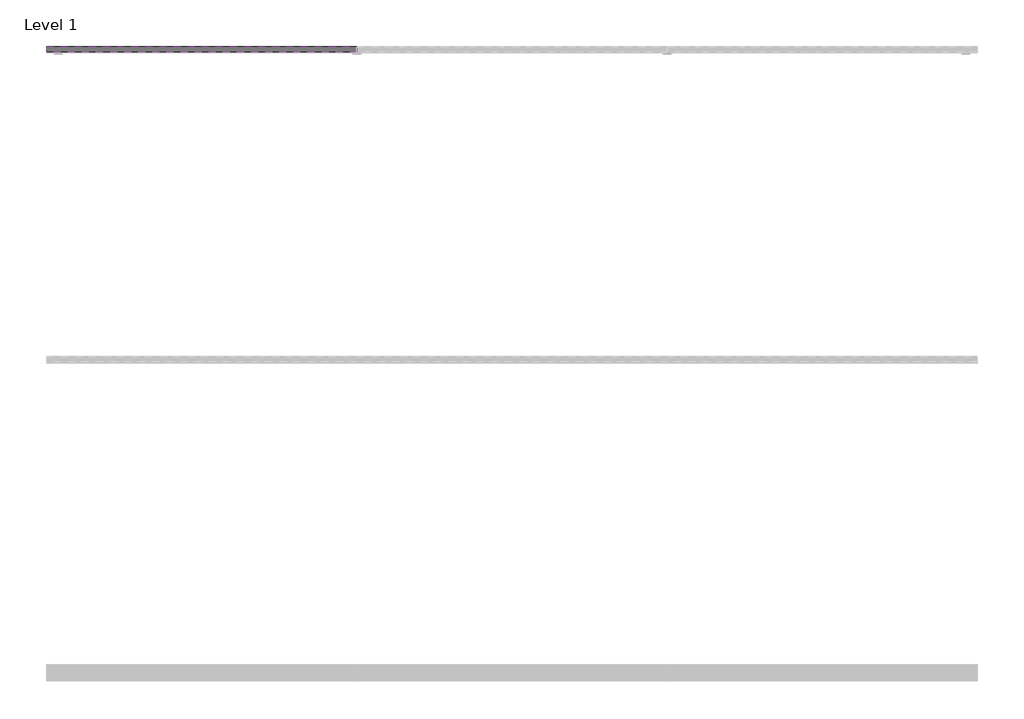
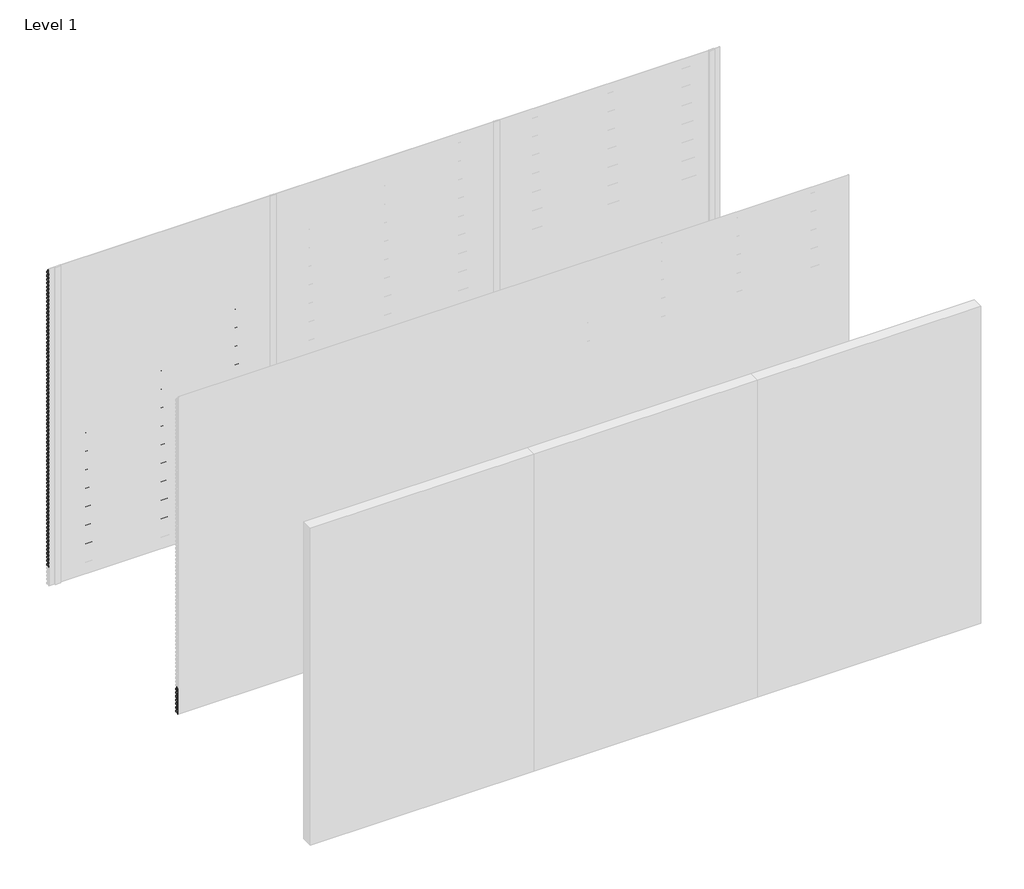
# One storey, part 15 of 17: 87 proxies.
"""IFC4 building model written with IfcOpenShell, lengths in millimetres."""

from ifc_helpers import new_model, si_unit, frame, origin, place, context, project, spatial, polyline, outline, extrude, element, save

model = new_model("IFC4")

# Units and contexts
model_context = context("Model", 3, world=origin())
ifc_project = project(units=[si_unit("LENGTHUNIT", "METRE", prefix="MILLI")], contexts=[model_context])

# Site, building, storey
site = spatial("IfcSite", under=ifc_project)
building = spatial("IfcBuilding", under=site)
storey = spatial("IfcBuildingStorey", under=building, Name="Level 1", Elevation=0.0)

# Proxies
placement = place(None, origin())
element("IfcBuildingElementProxy", 1, Name="Wall Sweeps", at=placement, inside=storey, context=model_context, shape_type="SweptSolid", body=[
    extrude(outline(polyline([(39.0, 2951.5), (39.0, 2936.5), (21.0, 2948.6411533), (3.0, 2936.5), (3.0, 2951.5), (20.0, 2962.9666448), (20.0, 2975.0), (22.0, 2975.0), (22.0, 2962.9666448), (39.0, 2951.5)])), frame((0.0, 0.0, 0.0), z_axis=(1.0, 0.0, 0.0), x_axis=(0.0, 1.0, 0.0)), (0.0, 0.0, 1.0), 2000.0),
])
element("IfcBuildingElementProxy", 2, Name="Wall Sweeps", at=placement, inside=storey, context=model_context, shape_type="SweptSolid", body=[
    extrude(outline(polyline([(39.0, 2916.5), (39.0, 2901.5), (21.0, 2913.6411533), (3.0, 2901.5), (3.0, 2916.5), (20.0, 2927.9666448), (20.0, 2940.0), (22.0, 2940.0), (22.0, 2927.9666448), (39.0, 2916.5)])), frame((0.0, 0.0, 0.0), z_axis=(1.0, 0.0, 0.0), x_axis=(0.0, 1.0, 0.0)), (0.0, 0.0, 1.0), 2000.0),
])
element("IfcBuildingElementProxy", 3, Name="Wall Sweeps", at=placement, inside=storey, context=model_context, shape_type="SweptSolid", body=[
    extrude(outline(polyline([(39.0, 2881.5), (39.0, 2866.5), (21.0, 2878.6411533), (3.0, 2866.5), (3.0, 2881.5), (20.0, 2892.9666448), (20.0, 2905.0), (22.0, 2905.0), (22.0, 2892.9666448), (39.0, 2881.5)])), frame((0.0, 0.0, 0.0), z_axis=(1.0, 0.0, 0.0), x_axis=(0.0, 1.0, 0.0)), (0.0, 0.0, 1.0), 2000.0),
])
element("IfcBuildingElementProxy", 4, Name="Wall Sweeps", at=placement, inside=storey, context=model_context, shape_type="SweptSolid", body=[
    extrude(outline(polyline([(39.0, 2846.5), (39.0, 2831.5), (21.0, 2843.6411533), (3.0, 2831.5), (3.0, 2846.5), (20.0, 2857.9666448), (20.0, 2870.0), (22.0, 2870.0), (22.0, 2857.9666448), (39.0, 2846.5)])), frame((0.0, 0.0, 0.0), z_axis=(1.0, 0.0, 0.0), x_axis=(0.0, 1.0, 0.0)), (0.0, 0.0, 1.0), 2000.0),
])
element("IfcBuildingElementProxy", 5, Name="Wall Sweeps", at=placement, inside=storey, context=model_context, shape_type="SweptSolid", body=[
    extrude(outline(polyline([(39.0, 2811.5), (39.0, 2796.5), (21.0, 2808.6411533), (3.0, 2796.5), (3.0, 2811.5), (20.0, 2822.9666448), (20.0, 2835.0), (22.0, 2835.0), (22.0, 2822.9666448), (39.0, 2811.5)])), frame((0.0, 0.0, 0.0), z_axis=(1.0, 0.0, 0.0), x_axis=(0.0, 1.0, 0.0)), (0.0, 0.0, 1.0), 2000.0),
])
element("IfcBuildingElementProxy", 6, Name="Wall Sweeps", at=placement, inside=storey, context=model_context, shape_type="SweptSolid", body=[
    extrude(outline(polyline([(39.0, 2776.5), (39.0, 2761.5), (21.0, 2773.6411533), (3.0, 2761.5), (3.0, 2776.5), (20.0, 2787.9666448), (20.0, 2800.0), (22.0, 2800.0), (22.0, 2787.9666448), (39.0, 2776.5)])), frame((0.0, 0.0, 0.0), z_axis=(1.0, 0.0, 0.0), x_axis=(0.0, 1.0, 0.0)), (0.0, 0.0, 1.0), 2000.0),
])
element("IfcBuildingElementProxy", 7, Name="Wall Sweeps", at=placement, inside=storey, context=model_context, shape_type="SweptSolid", body=[
    extrude(outline(polyline([(39.0, 2741.5), (39.0, 2726.5), (21.0, 2738.6411533), (3.0, 2726.5), (3.0, 2741.5), (20.0, 2752.9666448), (20.0, 2765.0), (22.0, 2765.0), (22.0, 2752.9666448), (39.0, 2741.5)])), frame((0.0, 0.0, 0.0), z_axis=(1.0, 0.0, 0.0), x_axis=(0.0, 1.0, 0.0)), (0.0, 0.0, 1.0), 2000.0),
])
element("IfcBuildingElementProxy", 8, Name="Wall Sweeps", at=placement, inside=storey, context=model_context, shape_type="SweptSolid", body=[
    extrude(outline(polyline([(39.0, 2706.5), (39.0, 2691.5), (21.0, 2703.6411533), (3.0, 2691.5), (3.0, 2706.5), (20.0, 2717.9666448), (20.0, 2730.0), (22.0, 2730.0), (22.0, 2717.9666448), (39.0, 2706.5)])), frame((0.0, 0.0, 0.0), z_axis=(1.0, 0.0, 0.0), x_axis=(0.0, 1.0, 0.0)), (0.0, 0.0, 1.0), 2000.0),
])
element("IfcBuildingElementProxy", 9, Name="Wall Sweeps", at=placement, inside=storey, context=model_context, shape_type="SweptSolid", body=[
    extrude(outline(polyline([(39.0, 2671.5), (39.0, 2656.5), (21.0, 2668.6411533), (3.0, 2656.5), (3.0, 2671.5), (20.0, 2682.9666448), (20.0, 2695.0), (22.0, 2695.0), (22.0, 2682.9666448), (39.0, 2671.5)])), frame((0.0, 0.0, 0.0), z_axis=(1.0, 0.0, 0.0), x_axis=(0.0, 1.0, 0.0)), (0.0, 0.0, 1.0), 2000.0),
])
element("IfcBuildingElementProxy", 10, Name="Wall Sweeps", at=placement, inside=storey, context=model_context, shape_type="SweptSolid", body=[
    extrude(outline(polyline([(39.0, 2636.5), (39.0, 2621.5), (21.0, 2633.6411533), (3.0, 2621.5), (3.0, 2636.5), (20.0, 2647.9666448), (20.0, 2660.0), (22.0, 2660.0), (22.0, 2647.9666448), (39.0, 2636.5)])), frame((0.0, 0.0, 0.0), z_axis=(1.0, 0.0, 0.0), x_axis=(0.0, 1.0, 0.0)), (0.0, 0.0, 1.0), 2000.0),
])
element("IfcBuildingElementProxy", 11, Name="Wall Sweeps", at=placement, inside=storey, context=model_context, shape_type="SweptSolid", body=[
    extrude(outline(polyline([(39.0, 2601.5), (39.0, 2586.5), (21.0, 2598.6411533), (3.0, 2586.5), (3.0, 2601.5), (20.0, 2612.9666448), (20.0, 2625.0), (22.0, 2625.0), (22.0, 2612.9666448), (39.0, 2601.5)])), frame((0.0, 0.0, 0.0), z_axis=(1.0, 0.0, 0.0), x_axis=(0.0, 1.0, 0.0)), (0.0, 0.0, 1.0), 2000.0),
])
element("IfcBuildingElementProxy", 12, Name="Wall Sweeps", at=placement, inside=storey, context=model_context, shape_type="SweptSolid", body=[
    extrude(outline(polyline([(39.0, 2566.5), (39.0, 2551.5), (21.0, 2563.6411533), (3.0, 2551.5), (3.0, 2566.5), (20.0, 2577.9666448), (20.0, 2590.0), (22.0, 2590.0), (22.0, 2577.9666448), (39.0, 2566.5)])), frame((0.0, 0.0, 0.0), z_axis=(1.0, 0.0, 0.0), x_axis=(0.0, 1.0, 0.0)), (0.0, 0.0, 1.0), 2000.0),
])
element("IfcBuildingElementProxy", 13, Name="Wall Sweeps", at=placement, inside=storey, context=model_context, shape_type="SweptSolid", body=[
    extrude(outline(polyline([(39.0, 2531.5), (39.0, 2516.5), (21.0, 2528.6411533), (3.0, 2516.5), (3.0, 2531.5), (20.0, 2542.9666448), (20.0, 2555.0), (22.0, 2555.0), (22.0, 2542.9666448), (39.0, 2531.5)])), frame((0.0, 0.0, 0.0), z_axis=(1.0, 0.0, 0.0), x_axis=(0.0, 1.0, 0.0)), (0.0, 0.0, 1.0), 2000.0),
])
element("IfcBuildingElementProxy", 14, Name="Wall Sweeps", at=placement, inside=storey, context=model_context, shape_type="SweptSolid", body=[
    extrude(outline(polyline([(39.0, 2496.5), (39.0, 2481.5), (21.0, 2493.6411533), (3.0, 2481.5), (3.0, 2496.5), (20.0, 2507.9666448), (20.0, 2520.0), (22.0, 2520.0), (22.0, 2507.9666448), (39.0, 2496.5)])), frame((0.0, 0.0, 0.0), z_axis=(1.0, 0.0, 0.0), x_axis=(0.0, 1.0, 0.0)), (0.0, 0.0, 1.0), 2000.0),
])
element("IfcBuildingElementProxy", 15, Name="Wall Sweeps", at=placement, inside=storey, context=model_context, shape_type="SweptSolid", body=[
    extrude(outline(polyline([(39.0, 2461.5), (39.0, 2446.5), (21.0, 2458.6411533), (3.0, 2446.5), (3.0, 2461.5), (20.0, 2472.9666448), (20.0, 2485.0), (22.0, 2485.0), (22.0, 2472.9666448), (39.0, 2461.5)])), frame((0.0, 0.0, 0.0), z_axis=(1.0, 0.0, 0.0), x_axis=(0.0, 1.0, 0.0)), (0.0, 0.0, 1.0), 2000.0),
])
element("IfcBuildingElementProxy", 16, Name="Wall Sweeps", at=placement, inside=storey, context=model_context, shape_type="SweptSolid", body=[
    extrude(outline(polyline([(39.0, 2426.5), (39.0, 2411.5), (21.0, 2423.6411533), (3.0, 2411.5), (3.0, 2426.5), (20.0, 2437.9666448), (20.0, 2450.0), (22.0, 2450.0), (22.0, 2437.9666448), (39.0, 2426.5)])), frame((0.0, 0.0, 0.0), z_axis=(1.0, 0.0, 0.0), x_axis=(0.0, 1.0, 0.0)), (0.0, 0.0, 1.0), 2000.0),
])
element("IfcBuildingElementProxy", 17, Name="Wall Sweeps", at=placement, inside=storey, context=model_context, shape_type="SweptSolid", body=[
    extrude(outline(polyline([(39.0, 2391.5), (39.0, 2376.5), (21.0, 2388.6411533), (3.0, 2376.5), (3.0, 2391.5), (20.0, 2402.9666448), (20.0, 2415.0), (22.0, 2415.0), (22.0, 2402.9666448), (39.0, 2391.5)])), frame((0.0, 0.0, 0.0), z_axis=(1.0, 0.0, 0.0), x_axis=(0.0, 1.0, 0.0)), (0.0, 0.0, 1.0), 2000.0),
])
element("IfcBuildingElementProxy", 18, Name="Wall Sweeps", at=placement, inside=storey, context=model_context, shape_type="SweptSolid", body=[
    extrude(outline(polyline([(39.0, 2356.5), (39.0, 2341.5), (21.0, 2353.6411533), (3.0, 2341.5), (3.0, 2356.5), (20.0, 2367.9666448), (20.0, 2380.0), (22.0, 2380.0), (22.0, 2367.9666448), (39.0, 2356.5)])), frame((0.0, 0.0, 0.0), z_axis=(1.0, 0.0, 0.0), x_axis=(0.0, 1.0, 0.0)), (0.0, 0.0, 1.0), 2000.0),
])
element("IfcBuildingElementProxy", 19, Name="Wall Sweeps", at=placement, inside=storey, context=model_context, shape_type="SweptSolid", body=[
    extrude(outline(polyline([(39.0, 2321.5), (39.0, 2306.5), (21.0, 2318.6411533), (3.0, 2306.5), (3.0, 2321.5), (20.0, 2332.9666448), (20.0, 2345.0), (22.0, 2345.0), (22.0, 2332.9666448), (39.0, 2321.5)])), frame((0.0, 0.0, 0.0), z_axis=(1.0, 0.0, 0.0), x_axis=(0.0, 1.0, 0.0)), (0.0, 0.0, 1.0), 2000.0),
])
element("IfcBuildingElementProxy", 20, Name="Wall Sweeps", at=placement, inside=storey, context=model_context, shape_type="SweptSolid", body=[
    extrude(outline(polyline([(39.0, 2286.5), (39.0, 2271.5), (21.0, 2283.6411533), (3.0, 2271.5), (3.0, 2286.5), (20.0, 2297.9666448), (20.0, 2310.0), (22.0, 2310.0), (22.0, 2297.9666448), (39.0, 2286.5)])), frame((0.0, 0.0, 0.0), z_axis=(1.0, 0.0, 0.0), x_axis=(0.0, 1.0, 0.0)), (0.0, 0.0, 1.0), 2000.0),
])
element("IfcBuildingElementProxy", 21, Name="Wall Sweeps", at=placement, inside=storey, context=model_context, shape_type="SweptSolid", body=[
    extrude(outline(polyline([(39.0, 2251.5), (39.0, 2236.5), (21.0, 2248.6411533), (3.0, 2236.5), (3.0, 2251.5), (20.0, 2262.9666448), (20.0, 2275.0), (22.0, 2275.0), (22.0, 2262.9666448), (39.0, 2251.5)])), frame((0.0, 0.0, 0.0), z_axis=(1.0, 0.0, 0.0), x_axis=(0.0, 1.0, 0.0)), (0.0, 0.0, 1.0), 2000.0),
])
element("IfcBuildingElementProxy", 22, Name="Wall Sweeps", at=placement, inside=storey, context=model_context, shape_type="SweptSolid", body=[
    extrude(outline(polyline([(39.0, 2216.5), (39.0, 2201.5), (21.0, 2213.6411533), (3.0, 2201.5), (3.0, 2216.5), (20.0, 2227.9666448), (20.0, 2240.0), (22.0, 2240.0), (22.0, 2227.9666448), (39.0, 2216.5)])), frame((0.0, 0.0, 0.0), z_axis=(1.0, 0.0, 0.0), x_axis=(0.0, 1.0, 0.0)), (0.0, 0.0, 1.0), 2000.0),
])
element("IfcBuildingElementProxy", 23, Name="Wall Sweeps", at=placement, inside=storey, context=model_context, shape_type="SweptSolid", body=[
    extrude(outline(polyline([(39.0, 2181.5), (39.0, 2166.5), (21.0, 2178.6411533), (3.0, 2166.5), (3.0, 2181.5), (20.0, 2192.9666448), (20.0, 2205.0), (22.0, 2205.0), (22.0, 2192.9666448), (39.0, 2181.5)])), frame((0.0, 0.0, 0.0), z_axis=(1.0, 0.0, 0.0), x_axis=(0.0, 1.0, 0.0)), (0.0, 0.0, 1.0), 2000.0),
])
element("IfcBuildingElementProxy", 24, Name="Wall Sweeps", at=placement, inside=storey, context=model_context, shape_type="SweptSolid", body=[
    extrude(outline(polyline([(39.0, 2146.5), (39.0, 2131.5), (21.0, 2143.6411533), (3.0, 2131.5), (3.0, 2146.5), (20.0, 2157.9666448), (20.0, 2170.0), (22.0, 2170.0), (22.0, 2157.9666448), (39.0, 2146.5)])), frame((0.0, 0.0, 0.0), z_axis=(1.0, 0.0, 0.0), x_axis=(0.0, 1.0, 0.0)), (0.0, 0.0, 1.0), 2000.0),
])
element("IfcBuildingElementProxy", 25, Name="Wall Sweeps", at=placement, inside=storey, context=model_context, shape_type="SweptSolid", body=[
    extrude(outline(polyline([(39.0, 2111.5), (39.0, 2096.5), (21.0, 2108.6411533), (3.0, 2096.5), (3.0, 2111.5), (20.0, 2122.9666448), (20.0, 2135.0), (22.0, 2135.0), (22.0, 2122.9666448), (39.0, 2111.5)])), frame((0.0, 0.0, 0.0), z_axis=(1.0, 0.0, 0.0), x_axis=(0.0, 1.0, 0.0)), (0.0, 0.0, 1.0), 2000.0),
])
element("IfcBuildingElementProxy", 26, Name="Wall Sweeps", at=placement, inside=storey, context=model_context, shape_type="SweptSolid", body=[
    extrude(outline(polyline([(39.0, 2076.5), (39.0, 2061.5), (21.0, 2073.6411533), (3.0, 2061.5), (3.0, 2076.5), (20.0, 2087.9666448), (20.0, 2100.0), (22.0, 2100.0), (22.0, 2087.9666448), (39.0, 2076.5)])), frame((0.0, 0.0, 0.0), z_axis=(1.0, 0.0, 0.0), x_axis=(0.0, 1.0, 0.0)), (0.0, 0.0, 1.0), 2000.0),
])
element("IfcBuildingElementProxy", 27, Name="Wall Sweeps", at=placement, inside=storey, context=model_context, shape_type="SweptSolid", body=[
    extrude(outline(polyline([(39.0, 2041.5), (39.0, 2026.5), (21.0, 2038.6411533), (3.0, 2026.5), (3.0, 2041.5), (20.0, 2052.9666448), (20.0, 2065.0), (22.0, 2065.0), (22.0, 2052.9666448), (39.0, 2041.5)])), frame((0.0, 0.0, 0.0), z_axis=(1.0, 0.0, 0.0), x_axis=(0.0, 1.0, 0.0)), (0.0, 0.0, 1.0), 2000.0),
])
element("IfcBuildingElementProxy", 28, Name="Wall Sweeps", at=placement, inside=storey, context=model_context, shape_type="SweptSolid", body=[
    extrude(outline(polyline([(39.0, 2006.5), (39.0, 1991.5), (21.0, 2003.6411533), (3.0, 1991.5), (3.0, 2006.5), (20.0, 2017.9666448), (20.0, 2030.0), (22.0, 2030.0), (22.0, 2017.9666448), (39.0, 2006.5)])), frame((0.0, 0.0, 0.0), z_axis=(1.0, 0.0, 0.0), x_axis=(0.0, 1.0, 0.0)), (0.0, 0.0, 1.0), 2000.0),
])
element("IfcBuildingElementProxy", 29, Name="Wall Sweeps", at=placement, inside=storey, context=model_context, shape_type="SweptSolid", body=[
    extrude(outline(polyline([(39.0, 1971.5), (39.0, 1956.5), (21.0, 1968.6411533), (3.0, 1956.5), (3.0, 1971.5), (20.0, 1982.9666448), (20.0, 1995.0), (22.0, 1995.0), (22.0, 1982.9666448), (39.0, 1971.5)])), frame((0.0, 0.0, 0.0), z_axis=(1.0, 0.0, 0.0), x_axis=(0.0, 1.0, 0.0)), (0.0, 0.0, 1.0), 2000.0),
])
element("IfcBuildingElementProxy", 30, Name="Wall Sweeps", at=placement, inside=storey, context=model_context, shape_type="SweptSolid", body=[
    extrude(outline(polyline([(39.0, 1936.5), (39.0, 1921.5), (21.0, 1933.6411533), (3.0, 1921.5), (3.0, 1936.5), (20.0, 1947.9666448), (20.0, 1960.0), (22.0, 1960.0), (22.0, 1947.9666448), (39.0, 1936.5)])), frame((0.0, 0.0, 0.0), z_axis=(1.0, 0.0, 0.0), x_axis=(0.0, 1.0, 0.0)), (0.0, 0.0, 1.0), 2000.0),
])
element("IfcBuildingElementProxy", 31, Name="Wall Sweeps", at=placement, inside=storey, context=model_context, shape_type="SweptSolid", body=[
    extrude(outline(polyline([(39.0, 1901.5), (39.0, 1886.5), (21.0, 1898.6411533), (3.0, 1886.5), (3.0, 1901.5), (20.0, 1912.9666448), (20.0, 1925.0), (22.0, 1925.0), (22.0, 1912.9666448), (39.0, 1901.5)])), frame((0.0, 0.0, 0.0), z_axis=(1.0, 0.0, 0.0), x_axis=(0.0, 1.0, 0.0)), (0.0, 0.0, 1.0), 2000.0),
])
element("IfcBuildingElementProxy", 32, Name="Wall Sweeps", at=placement, inside=storey, context=model_context, shape_type="SweptSolid", body=[
    extrude(outline(polyline([(39.0, 1866.5), (39.0, 1851.5), (21.0, 1863.6411533), (3.0, 1851.5), (3.0, 1866.5), (20.0, 1877.9666448), (20.0, 1890.0), (22.0, 1890.0), (22.0, 1877.9666448), (39.0, 1866.5)])), frame((0.0, 0.0, 0.0), z_axis=(1.0, 0.0, 0.0), x_axis=(0.0, 1.0, 0.0)), (0.0, 0.0, 1.0), 2000.0),
])
element("IfcBuildingElementProxy", 33, Name="Wall Sweeps", at=placement, inside=storey, context=model_context, shape_type="SweptSolid", body=[
    extrude(outline(polyline([(39.0, 1831.5), (39.0, 1816.5), (21.0, 1828.6411533), (3.0, 1816.5), (3.0, 1831.5), (20.0, 1842.9666448), (20.0, 1855.0), (22.0, 1855.0), (22.0, 1842.9666448), (39.0, 1831.5)])), frame((0.0, 0.0, 0.0), z_axis=(1.0, 0.0, 0.0), x_axis=(0.0, 1.0, 0.0)), (0.0, 0.0, 1.0), 2000.0),
])
element("IfcBuildingElementProxy", 34, Name="Wall Sweeps", at=placement, inside=storey, context=model_context, shape_type="SweptSolid", body=[
    extrude(outline(polyline([(39.0, 1796.5), (39.0, 1781.5), (21.0, 1793.6411533), (3.0, 1781.5), (3.0, 1796.5), (20.0, 1807.9666448), (20.0, 1820.0), (22.0, 1820.0), (22.0, 1807.9666448), (39.0, 1796.5)])), frame((0.0, 0.0, 0.0), z_axis=(1.0, 0.0, 0.0), x_axis=(0.0, 1.0, 0.0)), (0.0, 0.0, 1.0), 2000.0),
])
element("IfcBuildingElementProxy", 35, Name="Wall Sweeps", at=placement, inside=storey, context=model_context, shape_type="SweptSolid", body=[
    extrude(outline(polyline([(39.0, 1761.5), (39.0, 1746.5), (21.0, 1758.6411533), (3.0, 1746.5), (3.0, 1761.5), (20.0, 1772.9666448), (20.0, 1785.0), (22.0, 1785.0), (22.0, 1772.9666448), (39.0, 1761.5)])), frame((0.0, 0.0, 0.0), z_axis=(1.0, 0.0, 0.0), x_axis=(0.0, 1.0, 0.0)), (0.0, 0.0, 1.0), 2000.0),
])
element("IfcBuildingElementProxy", 36, Name="Wall Sweeps", at=placement, inside=storey, context=model_context, shape_type="SweptSolid", body=[
    extrude(outline(polyline([(39.0, 1726.5), (39.0, 1711.5), (21.0, 1723.6411533), (3.0, 1711.5), (3.0, 1726.5), (20.0, 1737.9666448), (20.0, 1750.0), (22.0, 1750.0), (22.0, 1737.9666448), (39.0, 1726.5)])), frame((0.0, 0.0, 0.0), z_axis=(1.0, 0.0, 0.0), x_axis=(0.0, 1.0, 0.0)), (0.0, 0.0, 1.0), 2000.0),
])
element("IfcBuildingElementProxy", 37, Name="Wall Sweeps", at=placement, inside=storey, context=model_context, shape_type="SweptSolid", body=[
    extrude(outline(polyline([(39.0, 1691.5), (39.0, 1676.5), (21.0, 1688.6411533), (3.0, 1676.5), (3.0, 1691.5), (20.0, 1702.9666448), (20.0, 1715.0), (22.0, 1715.0), (22.0, 1702.9666448), (39.0, 1691.5)])), frame((0.0, 0.0, 0.0), z_axis=(1.0, 0.0, 0.0), x_axis=(0.0, 1.0, 0.0)), (0.0, 0.0, 1.0), 2000.0),
])
element("IfcBuildingElementProxy", 38, Name="Wall Sweeps", at=placement, inside=storey, context=model_context, shape_type="SweptSolid", body=[
    extrude(outline(polyline([(39.0, 1656.5), (39.0, 1641.5), (21.0, 1653.6411533), (3.0, 1641.5), (3.0, 1656.5), (20.0, 1667.9666448), (20.0, 1680.0), (22.0, 1680.0), (22.0, 1667.9666448), (39.0, 1656.5)])), frame((0.0, 0.0, 0.0), z_axis=(1.0, 0.0, 0.0), x_axis=(0.0, 1.0, 0.0)), (0.0, 0.0, 1.0), 2000.0),
])
element("IfcBuildingElementProxy", 39, Name="Wall Sweeps", at=placement, inside=storey, context=model_context, shape_type="SweptSolid", body=[
    extrude(outline(polyline([(39.0, 1621.5), (39.0, 1606.5), (21.0, 1618.6411533), (3.0, 1606.5), (3.0, 1621.5), (20.0, 1632.9666448), (20.0, 1645.0), (22.0, 1645.0), (22.0, 1632.9666448), (39.0, 1621.5)])), frame((0.0, 0.0, 0.0), z_axis=(1.0, 0.0, 0.0), x_axis=(0.0, 1.0, 0.0)), (0.0, 0.0, 1.0), 2000.0),
])
element("IfcBuildingElementProxy", 40, Name="Wall Sweeps", at=placement, inside=storey, context=model_context, shape_type="SweptSolid", body=[
    extrude(outline(polyline([(39.0, 1586.5), (39.0, 1571.5), (21.0, 1583.6411533), (3.0, 1571.5), (3.0, 1586.5), (20.0, 1597.9666448), (20.0, 1610.0), (22.0, 1610.0), (22.0, 1597.9666448), (39.0, 1586.5)])), frame((0.0, 0.0, 0.0), z_axis=(1.0, 0.0, 0.0), x_axis=(0.0, 1.0, 0.0)), (0.0, 0.0, 1.0), 2000.0),
])
element("IfcBuildingElementProxy", 41, Name="Wall Sweeps", at=placement, inside=storey, context=model_context, shape_type="SweptSolid", body=[
    extrude(outline(polyline([(39.0, 1551.5), (39.0, 1536.5), (21.0, 1548.6411533), (3.0, 1536.5), (3.0, 1551.5), (20.0, 1562.9666448), (20.0, 1575.0), (22.0, 1575.0), (22.0, 1562.9666448), (39.0, 1551.5)])), frame((0.0, 0.0, 0.0), z_axis=(1.0, 0.0, 0.0), x_axis=(0.0, 1.0, 0.0)), (0.0, 0.0, 1.0), 2000.0),
])
element("IfcBuildingElementProxy", 42, Name="Wall Sweeps", at=placement, inside=storey, context=model_context, shape_type="SweptSolid", body=[
    extrude(outline(polyline([(39.0, 1516.5), (39.0, 1501.5), (21.0, 1513.6411533), (3.0, 1501.5), (3.0, 1516.5), (20.0, 1527.9666448), (20.0, 1540.0), (22.0, 1540.0), (22.0, 1527.9666448), (39.0, 1516.5)])), frame((0.0, 0.0, 0.0), z_axis=(1.0, 0.0, 0.0), x_axis=(0.0, 1.0, 0.0)), (0.0, 0.0, 1.0), 2000.0),
])
element("IfcBuildingElementProxy", 43, Name="Wall Sweeps", at=placement, inside=storey, context=model_context, shape_type="SweptSolid", body=[
    extrude(outline(polyline([(39.0, 1481.5), (39.0, 1466.5), (21.0, 1478.6411533), (3.0, 1466.5), (3.0, 1481.5), (20.0, 1492.9666448), (20.0, 1505.0), (22.0, 1505.0), (22.0, 1492.9666448), (39.0, 1481.5)])), frame((0.0, 0.0, 0.0), z_axis=(1.0, 0.0, 0.0), x_axis=(0.0, 1.0, 0.0)), (0.0, 0.0, 1.0), 2000.0),
])
element("IfcBuildingElementProxy", 44, Name="Wall Sweeps", at=placement, inside=storey, context=model_context, shape_type="SweptSolid", body=[
    extrude(outline(polyline([(39.0, 1446.5), (39.0, 1431.5), (21.0, 1443.6411533), (3.0, 1431.5), (3.0, 1446.5), (20.0, 1457.9666448), (20.0, 1470.0), (22.0, 1470.0), (22.0, 1457.9666448), (39.0, 1446.5)])), frame((0.0, 0.0, 0.0), z_axis=(1.0, 0.0, 0.0), x_axis=(0.0, 1.0, 0.0)), (0.0, 0.0, 1.0), 2000.0),
])
element("IfcBuildingElementProxy", 45, Name="Wall Sweeps", at=placement, inside=storey, context=model_context, shape_type="SweptSolid", body=[
    extrude(outline(polyline([(39.0, 1411.5), (39.0, 1396.5), (21.0, 1408.6411533), (3.0, 1396.5), (3.0, 1411.5), (20.0, 1422.9666448), (20.0, 1435.0), (22.0, 1435.0), (22.0, 1422.9666448), (39.0, 1411.5)])), frame((0.0, 0.0, 0.0), z_axis=(1.0, 0.0, 0.0), x_axis=(0.0, 1.0, 0.0)), (0.0, 0.0, 1.0), 2000.0),
])
element("IfcBuildingElementProxy", 46, Name="Wall Sweeps", at=placement, inside=storey, context=model_context, shape_type="SweptSolid", body=[
    extrude(outline(polyline([(39.0, 1376.5), (39.0, 1361.5), (21.0, 1373.6411533), (3.0, 1361.5), (3.0, 1376.5), (20.0, 1387.9666448), (20.0, 1400.0), (22.0, 1400.0), (22.0, 1387.9666448), (39.0, 1376.5)])), frame((0.0, 0.0, 0.0), z_axis=(1.0, 0.0, 0.0), x_axis=(0.0, 1.0, 0.0)), (0.0, 0.0, 1.0), 2000.0),
])
element("IfcBuildingElementProxy", 47, Name="Wall Sweeps", at=placement, inside=storey, context=model_context, shape_type="SweptSolid", body=[
    extrude(outline(polyline([(39.0, 1341.5), (39.0, 1326.5), (21.0, 1338.6411533), (3.0, 1326.5), (3.0, 1341.5), (20.0, 1352.9666448), (20.0, 1365.0), (22.0, 1365.0), (22.0, 1352.9666448), (39.0, 1341.5)])), frame((0.0, 0.0, 0.0), z_axis=(1.0, 0.0, 0.0), x_axis=(0.0, 1.0, 0.0)), (0.0, 0.0, 1.0), 2000.0),
])
element("IfcBuildingElementProxy", 48, Name="Wall Sweeps", at=placement, inside=storey, context=model_context, shape_type="SweptSolid", body=[
    extrude(outline(polyline([(39.0, 1306.5), (39.0, 1291.5), (21.0, 1303.6411533), (3.0, 1291.5), (3.0, 1306.5), (20.0, 1317.9666448), (20.0, 1330.0), (22.0, 1330.0), (22.0, 1317.9666448), (39.0, 1306.5)])), frame((0.0, 0.0, 0.0), z_axis=(1.0, 0.0, 0.0), x_axis=(0.0, 1.0, 0.0)), (0.0, 0.0, 1.0), 2000.0),
])
element("IfcBuildingElementProxy", 49, Name="Wall Sweeps", at=placement, inside=storey, context=model_context, shape_type="SweptSolid", body=[
    extrude(outline(polyline([(39.0, 1271.5), (39.0, 1256.5), (21.0, 1268.6411533), (3.0, 1256.5), (3.0, 1271.5), (20.0, 1282.9666448), (20.0, 1295.0), (22.0, 1295.0), (22.0, 1282.9666448), (39.0, 1271.5)])), frame((0.0, 0.0, 0.0), z_axis=(1.0, 0.0, 0.0), x_axis=(0.0, 1.0, 0.0)), (0.0, 0.0, 1.0), 2000.0),
])
element("IfcBuildingElementProxy", 50, Name="Wall Sweeps", at=placement, inside=storey, context=model_context, shape_type="SweptSolid", body=[
    extrude(outline(polyline([(39.0, 1236.5), (39.0, 1221.5), (21.0, 1233.6411533), (3.0, 1221.5), (3.0, 1236.5), (20.0, 1247.9666448), (20.0, 1260.0), (22.0, 1260.0), (22.0, 1247.9666448), (39.0, 1236.5)])), frame((0.0, 0.0, 0.0), z_axis=(1.0, 0.0, 0.0), x_axis=(0.0, 1.0, 0.0)), (0.0, 0.0, 1.0), 2000.0),
])
element("IfcBuildingElementProxy", 51, Name="Wall Sweeps", at=placement, inside=storey, context=model_context, shape_type="SweptSolid", body=[
    extrude(outline(polyline([(39.0, 1201.5), (39.0, 1186.5), (21.0, 1198.6411533), (3.0, 1186.5), (3.0, 1201.5), (20.0, 1212.9666448), (20.0, 1225.0), (22.0, 1225.0), (22.0, 1212.9666448), (39.0, 1201.5)])), frame((0.0, 0.0, 0.0), z_axis=(1.0, 0.0, 0.0), x_axis=(0.0, 1.0, 0.0)), (0.0, 0.0, 1.0), 2000.0),
])
element("IfcBuildingElementProxy", 52, Name="Wall Sweeps", at=placement, inside=storey, context=model_context, shape_type="SweptSolid", body=[
    extrude(outline(polyline([(39.0, 1166.5), (39.0, 1151.5), (21.0, 1163.6411533), (3.0, 1151.5), (3.0, 1166.5), (20.0, 1177.9666448), (20.0, 1190.0), (22.0, 1190.0), (22.0, 1177.9666448), (39.0, 1166.5)])), frame((0.0, 0.0, 0.0), z_axis=(1.0, 0.0, 0.0), x_axis=(0.0, 1.0, 0.0)), (0.0, 0.0, 1.0), 2000.0),
])
element("IfcBuildingElementProxy", 53, Name="Wall Sweeps", at=placement, inside=storey, context=model_context, shape_type="SweptSolid", body=[
    extrude(outline(polyline([(39.0, 1131.5), (39.0, 1116.5), (21.0, 1128.6411533), (3.0, 1116.5), (3.0, 1131.5), (20.0, 1142.9666448), (20.0, 1155.0), (22.0, 1155.0), (22.0, 1142.9666448), (39.0, 1131.5)])), frame((0.0, 0.0, 0.0), z_axis=(1.0, 0.0, 0.0), x_axis=(0.0, 1.0, 0.0)), (0.0, 0.0, 1.0), 2000.0),
])
element("IfcBuildingElementProxy", 54, Name="Wall Sweeps", at=placement, inside=storey, context=model_context, shape_type="SweptSolid", body=[
    extrude(outline(polyline([(39.0, 1096.5), (39.0, 1081.5), (21.0, 1093.6411533), (3.0, 1081.5), (3.0, 1096.5), (20.0, 1107.9666448), (20.0, 1120.0), (22.0, 1120.0), (22.0, 1107.9666448), (39.0, 1096.5)])), frame((0.0, 0.0, 0.0), z_axis=(1.0, 0.0, 0.0), x_axis=(0.0, 1.0, 0.0)), (0.0, 0.0, 1.0), 2000.0),
])
element("IfcBuildingElementProxy", 55, Name="Wall Sweeps", at=placement, inside=storey, context=model_context, shape_type="SweptSolid", body=[
    extrude(outline(polyline([(39.0, 1061.5), (39.0, 1046.5), (21.0, 1058.6411533), (3.0, 1046.5), (3.0, 1061.5), (20.0, 1072.9666448), (20.0, 1085.0), (22.0, 1085.0), (22.0, 1072.9666448), (39.0, 1061.5)])), frame((0.0, 0.0, 0.0), z_axis=(1.0, 0.0, 0.0), x_axis=(0.0, 1.0, 0.0)), (0.0, 0.0, 1.0), 2000.0),
])
element("IfcBuildingElementProxy", 56, Name="Wall Sweeps", at=placement, inside=storey, context=model_context, shape_type="SweptSolid", body=[
    extrude(outline(polyline([(39.0, 1026.5), (39.0, 1011.5), (21.0, 1023.6411533), (3.0, 1011.5), (3.0, 1026.5), (20.0, 1037.9666448), (20.0, 1050.0), (22.0, 1050.0), (22.0, 1037.9666448), (39.0, 1026.5)])), frame((0.0, 0.0, 0.0), z_axis=(1.0, 0.0, 0.0), x_axis=(0.0, 1.0, 0.0)), (0.0, 0.0, 1.0), 2000.0),
])
element("IfcBuildingElementProxy", 57, Name="Wall Sweeps", at=placement, inside=storey, context=model_context, shape_type="SweptSolid", body=[
    extrude(outline(polyline([(39.0, 991.5), (39.0, 976.5), (21.0, 988.6411533), (3.0, 976.5), (3.0, 991.5), (20.0, 1002.9666448), (20.0, 1015.0), (22.0, 1015.0), (22.0, 1002.9666448), (39.0, 991.5)])), frame((0.0, 0.0, 0.0), z_axis=(1.0, 0.0, 0.0), x_axis=(0.0, 1.0, 0.0)), (0.0, 0.0, 1.0), 2000.0),
])
element("IfcBuildingElementProxy", 58, Name="Wall Sweeps", at=placement, inside=storey, context=model_context, shape_type="SweptSolid", body=[
    extrude(outline(polyline([(39.0, 956.5), (39.0, 941.5), (21.0, 953.6411533), (3.0, 941.5), (3.0, 956.5), (20.0, 967.9666448), (20.0, 980.0), (22.0, 980.0), (22.0, 967.9666448), (39.0, 956.5)])), frame((0.0, 0.0, 0.0), z_axis=(1.0, 0.0, 0.0), x_axis=(0.0, 1.0, 0.0)), (0.0, 0.0, 1.0), 2000.0),
])
element("IfcBuildingElementProxy", 59, Name="Wall Sweeps", at=placement, inside=storey, context=model_context, shape_type="SweptSolid", body=[
    extrude(outline(polyline([(39.0, 921.5), (39.0, 906.5), (21.0, 918.6411533), (3.0, 906.5), (3.0, 921.5), (20.0, 932.9666448), (20.0, 945.0), (22.0, 945.0), (22.0, 932.9666448), (39.0, 921.5)])), frame((0.0, 0.0, 0.0), z_axis=(1.0, 0.0, 0.0), x_axis=(0.0, 1.0, 0.0)), (0.0, 0.0, 1.0), 2000.0),
])
element("IfcBuildingElementProxy", 60, Name="Wall Sweeps", at=placement, inside=storey, context=model_context, shape_type="SweptSolid", body=[
    extrude(outline(polyline([(39.0, 886.5), (39.0, 871.5), (21.0, 883.6411533), (3.0, 871.5), (3.0, 886.5), (20.0, 897.9666448), (20.0, 910.0), (22.0, 910.0), (22.0, 897.9666448), (39.0, 886.5)])), frame((0.0, 0.0, 0.0), z_axis=(1.0, 0.0, 0.0), x_axis=(0.0, 1.0, 0.0)), (0.0, 0.0, 1.0), 2000.0),
])
element("IfcBuildingElementProxy", 61, Name="Wall Sweeps", at=placement, inside=storey, context=model_context, shape_type="SweptSolid", body=[
    extrude(outline(polyline([(39.0, 851.5), (39.0, 836.5), (21.0, 848.6411533), (3.0, 836.5), (3.0, 851.5), (20.0, 862.9666448), (20.0, 875.0), (22.0, 875.0), (22.0, 862.9666448), (39.0, 851.5)])), frame((0.0, 0.0, 0.0), z_axis=(1.0, 0.0, 0.0), x_axis=(0.0, 1.0, 0.0)), (0.0, 0.0, 1.0), 2000.0),
])
element("IfcBuildingElementProxy", 62, Name="Wall Sweeps", at=placement, inside=storey, context=model_context, shape_type="SweptSolid", body=[
    extrude(outline(polyline([(39.0, 816.5), (39.0, 801.5), (21.0, 813.6411533), (3.0, 801.5), (3.0, 816.5), (20.0, 827.9666448), (20.0, 840.0), (22.0, 840.0), (22.0, 827.9666448), (39.0, 816.5)])), frame((0.0, 0.0, 0.0), z_axis=(1.0, 0.0, 0.0), x_axis=(0.0, 1.0, 0.0)), (0.0, 0.0, 1.0), 2000.0),
])
element("IfcBuildingElementProxy", 63, Name="Wall Sweeps", at=placement, inside=storey, context=model_context, shape_type="SweptSolid", body=[
    extrude(outline(polyline([(39.0, 781.5), (39.0, 766.5), (21.0, 778.6411533), (3.0, 766.5), (3.0, 781.5), (20.0, 792.9666448), (20.0, 805.0), (22.0, 805.0), (22.0, 792.9666448), (39.0, 781.5)])), frame((0.0, 0.0, 0.0), z_axis=(1.0, 0.0, 0.0), x_axis=(0.0, 1.0, 0.0)), (0.0, 0.0, 1.0), 2000.0),
])
element("IfcBuildingElementProxy", 64, Name="Wall Sweeps", at=placement, inside=storey, context=model_context, shape_type="SweptSolid", body=[
    extrude(outline(polyline([(39.0, 746.5), (39.0, 731.5), (21.0, 743.6411533), (3.0, 731.5), (3.0, 746.5), (20.0, 757.9666448), (20.0, 770.0), (22.0, 770.0), (22.0, 757.9666448), (39.0, 746.5)])), frame((0.0, 0.0, 0.0), z_axis=(1.0, 0.0, 0.0), x_axis=(0.0, 1.0, 0.0)), (0.0, 0.0, 1.0), 2000.0),
])
element("IfcBuildingElementProxy", 65, Name="Wall Sweeps", at=placement, inside=storey, context=model_context, shape_type="SweptSolid", body=[
    extrude(outline(polyline([(39.0, 711.5), (39.0, 696.5), (21.0, 708.6411533), (3.0, 696.5), (3.0, 711.5), (20.0, 722.9666448), (20.0, 735.0), (22.0, 735.0), (22.0, 722.9666448), (39.0, 711.5)])), frame((0.0, 0.0, 0.0), z_axis=(1.0, 0.0, 0.0), x_axis=(0.0, 1.0, 0.0)), (0.0, 0.0, 1.0), 2000.0),
])
element("IfcBuildingElementProxy", 66, Name="Wall Sweeps", at=placement, inside=storey, context=model_context, shape_type="SweptSolid", body=[
    extrude(outline(polyline([(39.0, 676.5), (39.0, 661.5), (21.0, 673.6411533), (3.0, 661.5), (3.0, 676.5), (20.0, 687.9666448), (20.0, 700.0), (22.0, 700.0), (22.0, 687.9666448), (39.0, 676.5)])), frame((0.0, 0.0, 0.0), z_axis=(1.0, 0.0, 0.0), x_axis=(0.0, 1.0, 0.0)), (0.0, 0.0, 1.0), 2000.0),
])
element("IfcBuildingElementProxy", 67, Name="Wall Sweeps", at=placement, inside=storey, context=model_context, shape_type="SweptSolid", body=[
    extrude(outline(polyline([(39.0, 641.5), (39.0, 626.5), (21.0, 638.6411533), (3.0, 626.5), (3.0, 641.5), (20.0, 652.9666448), (20.0, 665.0), (22.0, 665.0), (22.0, 652.9666448), (39.0, 641.5)])), frame((0.0, 0.0, 0.0), z_axis=(1.0, 0.0, 0.0), x_axis=(0.0, 1.0, 0.0)), (0.0, 0.0, 1.0), 2000.0),
])
element("IfcBuildingElementProxy", 68, Name="Wall Sweeps", at=placement, inside=storey, context=model_context, shape_type="SweptSolid", body=[
    extrude(outline(polyline([(39.0, 606.5), (39.0, 591.5), (21.0, 603.6411533), (3.0, 591.5), (3.0, 606.5), (20.0, 617.9666448), (20.0, 630.0), (22.0, 630.0), (22.0, 617.9666448), (39.0, 606.5)])), frame((0.0, 0.0, 0.0), z_axis=(1.0, 0.0, 0.0), x_axis=(0.0, 1.0, 0.0)), (0.0, 0.0, 1.0), 2000.0),
])
element("IfcBuildingElementProxy", 69, Name="Wall Sweeps", at=placement, inside=storey, context=model_context, shape_type="SweptSolid", body=[
    extrude(outline(polyline([(39.0, 571.5), (39.0, 556.5), (21.0, 568.6411533), (3.0, 556.5), (3.0, 571.5), (20.0, 582.9666448), (20.0, 595.0), (22.0, 595.0), (22.0, 582.9666448), (39.0, 571.5)])), frame((0.0, 0.0, 0.0), z_axis=(1.0, 0.0, 0.0), x_axis=(0.0, 1.0, 0.0)), (0.0, 0.0, 1.0), 2000.0),
])
element("IfcBuildingElementProxy", 70, Name="Wall Sweeps", at=placement, inside=storey, context=model_context, shape_type="SweptSolid", body=[
    extrude(outline(polyline([(39.0, 536.5), (39.0, 521.5), (21.0, 533.6411533), (3.0, 521.5), (3.0, 536.5), (20.0, 547.9666448), (20.0, 560.0), (22.0, 560.0), (22.0, 547.9666448), (39.0, 536.5)])), frame((0.0, 0.0, 0.0), z_axis=(1.0, 0.0, 0.0), x_axis=(0.0, 1.0, 0.0)), (0.0, 0.0, 1.0), 2000.0),
])
element("IfcBuildingElementProxy", 71, Name="Wall Sweeps", at=placement, inside=storey, context=model_context, shape_type="SweptSolid", body=[
    extrude(outline(polyline([(39.0, 501.5), (39.0, 486.5), (21.0, 498.6411533), (3.0, 486.5), (3.0, 501.5), (20.0, 512.9666448), (20.0, 525.0), (22.0, 525.0), (22.0, 512.9666448), (39.0, 501.5)])), frame((0.0, 0.0, 0.0), z_axis=(1.0, 0.0, 0.0), x_axis=(0.0, 1.0, 0.0)), (0.0, 0.0, 1.0), 2000.0),
])
element("IfcBuildingElementProxy", 72, Name="Wall Sweeps", at=placement, inside=storey, context=model_context, shape_type="SweptSolid", body=[
    extrude(outline(polyline([(39.0, 466.5), (39.0, 451.5), (21.0, 463.6411533), (3.0, 451.5), (3.0, 466.5), (20.0, 477.9666448), (20.0, 490.0), (22.0, 490.0), (22.0, 477.9666448), (39.0, 466.5)])), frame((0.0, 0.0, 0.0), z_axis=(1.0, 0.0, 0.0), x_axis=(0.0, 1.0, 0.0)), (0.0, 0.0, 1.0), 2000.0),
])
element("IfcBuildingElementProxy", 73, Name="Wall Sweeps", at=placement, inside=storey, context=model_context, shape_type="SweptSolid", body=[
    extrude(outline(polyline([(39.0, 431.5), (39.0, 416.5), (21.0, 428.6411533), (3.0, 416.5), (3.0, 431.5), (20.0, 442.9666448), (20.0, 455.0), (22.0, 455.0), (22.0, 442.9666448), (39.0, 431.5)])), frame((0.0, 0.0, 0.0), z_axis=(1.0, 0.0, 0.0), x_axis=(0.0, 1.0, 0.0)), (0.0, 0.0, 1.0), 2000.0),
])
element("IfcBuildingElementProxy", 74, Name="Wall Sweeps", at=placement, inside=storey, context=model_context, shape_type="SweptSolid", body=[
    extrude(outline(polyline([(39.0, 396.5), (39.0, 381.5), (21.0, 393.6411533), (3.0, 381.5), (3.0, 396.5), (20.0, 407.9666448), (20.0, 420.0), (22.0, 420.0), (22.0, 407.9666448), (39.0, 396.5)])), frame((0.0, 0.0, 0.0), z_axis=(1.0, 0.0, 0.0), x_axis=(0.0, 1.0, 0.0)), (0.0, 0.0, 1.0), 2000.0),
])
element("IfcBuildingElementProxy", 75, Name="Wall Sweeps", at=placement, inside=storey, context=model_context, shape_type="SweptSolid", body=[
    extrude(outline(polyline([(39.0, 361.5), (39.0, 346.5), (21.0, 358.6411533), (3.0, 346.5), (3.0, 361.5), (20.0, 372.9666448), (20.0, 385.0), (22.0, 385.0), (22.0, 372.9666448), (39.0, 361.5)])), frame((0.0, 0.0, 0.0), z_axis=(1.0, 0.0, 0.0), x_axis=(0.0, 1.0, 0.0)), (0.0, 0.0, 1.0), 2000.0),
])
element("IfcBuildingElementProxy", 76, Name="Wall Sweeps", at=placement, inside=storey, context=model_context, shape_type="SweptSolid", body=[
    extrude(outline(polyline([(39.0, 326.5), (39.0, 311.5), (21.0, 323.6411533), (3.0, 311.5), (3.0, 326.5), (20.0, 337.9666448), (20.0, 350.0), (22.0, 350.0), (22.0, 337.9666448), (39.0, 326.5)])), frame((0.0, 0.0, 0.0), z_axis=(1.0, 0.0, 0.0), x_axis=(0.0, 1.0, 0.0)), (0.0, 0.0, 1.0), 2000.0),
])
element("IfcBuildingElementProxy", 77, Name="Wall Sweeps", at=placement, inside=storey, context=model_context, shape_type="SweptSolid", body=[
    extrude(outline(polyline([(39.0, 291.5), (39.0, 276.5), (21.0, 288.6411533), (3.0, 276.5), (3.0, 291.5), (20.0, 302.9666448), (20.0, 315.0), (22.0, 315.0), (22.0, 302.9666448), (39.0, 291.5)])), frame((0.0, 0.0, 0.0), z_axis=(1.0, 0.0, 0.0), x_axis=(0.0, 1.0, 0.0)), (0.0, 0.0, 1.0), 2000.0),
])
element("IfcBuildingElementProxy", 78, Name="Wall Sweeps", at=placement, inside=storey, context=model_context, shape_type="SweptSolid", body=[
    extrude(outline(polyline([(39.0, 256.5), (39.0, 241.5), (21.0, 253.6411533), (3.0, 241.5), (3.0, 256.5), (20.0, 267.9666448), (20.0, 280.0), (22.0, 280.0), (22.0, 267.9666448), (39.0, 256.5)])), frame((0.0, 0.0, 0.0), z_axis=(1.0, 0.0, 0.0), x_axis=(0.0, 1.0, 0.0)), (0.0, 0.0, 1.0), 2000.0),
])
element("IfcBuildingElementProxy", 79, Name="Wall Sweeps", at=placement, inside=storey, context=model_context, shape_type="SweptSolid", body=[
    extrude(outline(polyline([(39.0, 221.5), (39.0, 206.5), (21.0, 218.6411533), (3.0, 206.5), (3.0, 221.5), (20.0, 232.9666448), (20.0, 245.0), (22.0, 245.0), (22.0, 232.9666448), (39.0, 221.5)])), frame((0.0, 0.0, 0.0), z_axis=(1.0, 0.0, 0.0), x_axis=(0.0, 1.0, 0.0)), (0.0, 0.0, 1.0), 2000.0),
])
element("IfcBuildingElementProxy", 80, Name="Wall Sweeps", at=placement, inside=storey, context=model_context, shape_type="SweptSolid", body=[
    extrude(outline(polyline([(39.0, 186.5), (39.0, 171.5), (21.0, 183.6411533), (3.0, 171.5), (3.0, 186.5), (20.0, 197.9666448), (20.0, 210.0), (22.0, 210.0), (22.0, 197.9666448), (39.0, 186.5)])), frame((0.0, 0.0, 0.0), z_axis=(1.0, 0.0, 0.0), x_axis=(0.0, 1.0, 0.0)), (0.0, 0.0, 1.0), 2000.0),
])
element("IfcBuildingElementProxy", 81, Name="Wall Sweeps", at=placement, inside=storey, context=model_context, shape_type="SweptSolid", body=[
    extrude(outline(polyline([(-1961.0, 221.5), (-1961.0, 206.5), (-1979.0, 218.6411533), (-1997.0, 206.5), (-1997.0, 221.5), (-1980.0, 232.9666448), (-1980.0, 245.0), (-1978.0, 245.0), (-1978.0, 232.9666448), (-1961.0, 221.5)])), frame((0.0, 0.0, 0.0), z_axis=(1.0, 0.0, 0.0), x_axis=(0.0, 1.0, 0.0)), (0.0, 0.0, 1.0), 6000.0),
])
element("IfcBuildingElementProxy", 82, Name="Wall Sweeps", at=placement, inside=storey, context=model_context, shape_type="SweptSolid", body=[
    extrude(outline(polyline([(-1961.0, 186.5), (-1961.0, 171.5), (-1979.0, 183.6411533), (-1997.0, 171.5), (-1997.0, 186.5), (-1980.0, 197.9666448), (-1980.0, 210.0), (-1978.0, 210.0), (-1978.0, 197.9666448), (-1961.0, 186.5)])), frame((0.0, 0.0, 0.0), z_axis=(1.0, 0.0, 0.0), x_axis=(0.0, 1.0, 0.0)), (0.0, 0.0, 1.0), 6000.0),
])
element("IfcBuildingElementProxy", 83, Name="Wall Sweeps", at=placement, inside=storey, context=model_context, shape_type="SweptSolid", body=[
    extrude(outline(polyline([(-1961.0, 151.5), (-1961.0, 136.5), (-1979.0, 148.6411533), (-1997.0, 136.5), (-1997.0, 151.5), (-1980.0, 162.9666448), (-1980.0, 175.0), (-1978.0, 175.0), (-1978.0, 162.9666448), (-1961.0, 151.5)])), frame((0.0, 0.0, 0.0), z_axis=(1.0, 0.0, 0.0), x_axis=(0.0, 1.0, 0.0)), (0.0, 0.0, 1.0), 6000.0),
])
element("IfcBuildingElementProxy", 84, Name="Wall Sweeps", at=placement, inside=storey, context=model_context, shape_type="SweptSolid", body=[
    extrude(outline(polyline([(-1961.0, 116.5), (-1961.0, 101.5), (-1979.0, 113.6411533), (-1997.0, 101.5), (-1997.0, 116.5), (-1980.0, 127.9666448), (-1980.0, 140.0), (-1978.0, 140.0), (-1978.0, 127.9666448), (-1961.0, 116.5)])), frame((0.0, 0.0, 0.0), z_axis=(1.0, 0.0, 0.0), x_axis=(0.0, 1.0, 0.0)), (0.0, 0.0, 1.0), 6000.0),
])
element("IfcBuildingElementProxy", 85, Name="Wall Sweeps", at=placement, inside=storey, context=model_context, shape_type="SweptSolid", body=[
    extrude(outline(polyline([(-1961.0, 81.5), (-1961.0, 66.5), (-1979.0, 78.6411533), (-1997.0, 66.5), (-1997.0, 81.5), (-1980.0, 92.9666448), (-1980.0, 105.0), (-1978.0, 105.0), (-1978.0, 92.9666448), (-1961.0, 81.5)])), frame((0.0, 0.0, 0.0), z_axis=(1.0, 0.0, 0.0), x_axis=(0.0, 1.0, 0.0)), (0.0, 0.0, 1.0), 6000.0),
])
element("IfcBuildingElementProxy", 86, Name="Wall Sweeps", at=placement, inside=storey, context=model_context, shape_type="SweptSolid", body=[
    extrude(outline(polyline([(-1961.0, 46.5), (-1961.0, 31.5), (-1979.0, 43.6411533), (-1997.0, 31.5), (-1997.0, 46.5), (-1980.0, 57.9666448), (-1980.0, 70.0), (-1978.0, 70.0), (-1978.0, 57.9666448), (-1961.0, 46.5)])), frame((0.0, 0.0, 0.0), z_axis=(1.0, 0.0, 0.0), x_axis=(0.0, 1.0, 0.0)), (0.0, 0.0, 1.0), 6000.0),
])
element("IfcBuildingElementProxy", 87, Name="Wall Sweeps", at=placement, inside=storey, context=model_context, shape_type="SweptSolid", body=[
    extrude(outline(polyline([(-1961.0, 11.5), (-1961.0, -3.5), (-1979.0, 8.6411533), (-1997.0, -3.5), (-1997.0, 11.5), (-1980.0, 22.9666448), (-1980.0, 35.0), (-1978.0, 35.0), (-1978.0, 22.9666448), (-1961.0, 11.5)])), frame((0.0, 0.0, 0.0), z_axis=(1.0, 0.0, 0.0), x_axis=(0.0, 1.0, 0.0)), (0.0, 0.0, 1.0), 6000.0),
])

save(model, "model.ifc")
